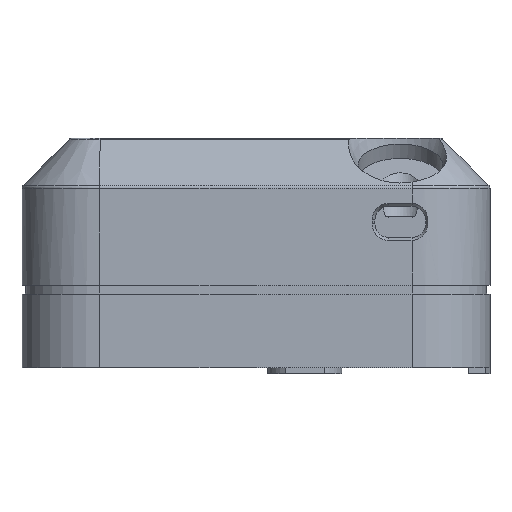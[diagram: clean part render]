
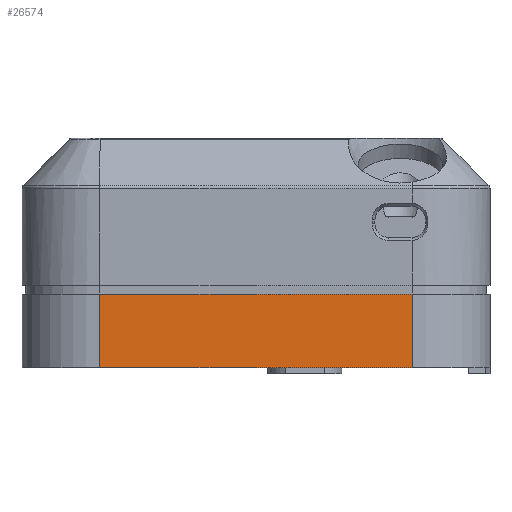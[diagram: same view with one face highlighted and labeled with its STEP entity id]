
A CAD part, left-side view. The second image highlights one B-rep face of the part: STEP entity #26574.
In plain terms, the highlighted planar face has unit normal (-1, 0, 0).
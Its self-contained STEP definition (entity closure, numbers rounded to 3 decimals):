
#4383 = PLANE('',#4384);
#4384 = AXIS2_PLACEMENT_3D('',#4385,#4386,#4387);
#4385 = CARTESIAN_POINT('',(-27.1,-24.1,3.05));
#4386 = DIRECTION('',(0.,0.,1.));
#4387 = DIRECTION('',(1.,0.,0.));
#4986 = VERTEX_POINT('',#4987);
#4987 = CARTESIAN_POINT('',(-27.,16.,3.05));
#5002 = CYLINDRICAL_SURFACE('',#5003,8.);
#5003 = AXIS2_PLACEMENT_3D('',#5004,#5005,#5006);
#5004 = CARTESIAN_POINT('',(-19.,16.,2.4));
#5005 = DIRECTION('',(0.,0.,1.));
#5006 = DIRECTION('',(-1.,-0.,0.));
#5014 = EDGE_CURVE('',#4986,#5015,#5017,.T.);
#5015 = VERTEX_POINT('',#5016);
#5016 = CARTESIAN_POINT('',(-27.,-16.,3.05));
#5017 = SURFACE_CURVE('',#5018,(#5022,#5028),.PCURVE_S1.);
#5018 = LINE('',#5019,#5020);
#5019 = CARTESIAN_POINT('',(-27.,-24.05,3.05));
#5020 = VECTOR('',#5021,1.);
#5021 = DIRECTION('',(0.,-1.,0.));
#5022 = PCURVE('',#4383,#5023);
#5023 = DEFINITIONAL_REPRESENTATION('',(#5024),#5027);
#5024 = B_SPLINE_CURVE_WITH_KNOTS('',1,(#5025,#5026),.UNSPECIFIED.,.F.,
  .F.,(2,2),(-40.05,-8.05),.PIECEWISE_BEZIER_KNOTS.);
#5025 = CARTESIAN_POINT('',(0.1,40.1));
#5026 = CARTESIAN_POINT('',(0.1,8.1));
#5027 = ( GEOMETRIC_REPRESENTATION_CONTEXT(2) 
PARAMETRIC_REPRESENTATION_CONTEXT() REPRESENTATION_CONTEXT('2D SPACE',''
  ) );
#5028 = PCURVE('',#5029,#5034);
#5029 = PLANE('',#5030);
#5030 = AXIS2_PLACEMENT_3D('',#5031,#5032,#5033);
#5031 = CARTESIAN_POINT('',(-27.,-24.,2.4));
#5032 = DIRECTION('',(1.,0.,0.));
#5033 = DIRECTION('',(0.,0.,1.));
#5034 = DEFINITIONAL_REPRESENTATION('',(#5035),#5038);
#5035 = B_SPLINE_CURVE_WITH_KNOTS('',1,(#5036,#5037),.UNSPECIFIED.,.F.,
  .F.,(2,2),(-40.05,-8.05),.PIECEWISE_BEZIER_KNOTS.);
#5036 = CARTESIAN_POINT('',(0.65,-40.));
#5037 = CARTESIAN_POINT('',(0.65,-8.));
#5038 = ( GEOMETRIC_REPRESENTATION_CONTEXT(2) 
PARAMETRIC_REPRESENTATION_CONTEXT() REPRESENTATION_CONTEXT('2D SPACE',''
  ) );
#5057 = CYLINDRICAL_SURFACE('',#5058,8.);
#5058 = AXIS2_PLACEMENT_3D('',#5059,#5060,#5061);
#5059 = CARTESIAN_POINT('',(-19.,-16.,2.4));
#5060 = DIRECTION('',(0.,0.,1.));
#5061 = DIRECTION('',(-1.,-0.,0.));
#5091 = EDGE_CURVE('',#5015,#5092,#5094,.T.);
#5092 = VERTEX_POINT('',#5093);
#5093 = CARTESIAN_POINT('',(-27.,-16.,10.6));
#5094 = SURFACE_CURVE('',#5095,(#5099,#5106),.PCURVE_S1.);
#5095 = LINE('',#5096,#5097);
#5096 = CARTESIAN_POINT('',(-27.,-16.,2.4));
#5097 = VECTOR('',#5098,1.);
#5098 = DIRECTION('',(0.,0.,1.));
#5099 = PCURVE('',#5057,#5100);
#5100 = DEFINITIONAL_REPRESENTATION('',(#5101),#5105);
#5101 = LINE('',#5102,#5103);
#5102 = CARTESIAN_POINT('',(0.,0.));
#5103 = VECTOR('',#5104,1.);
#5104 = DIRECTION('',(0.,1.));
#5105 = ( GEOMETRIC_REPRESENTATION_CONTEXT(2) 
PARAMETRIC_REPRESENTATION_CONTEXT() REPRESENTATION_CONTEXT('2D SPACE',''
  ) );
#5106 = PCURVE('',#5029,#5107);
#5107 = DEFINITIONAL_REPRESENTATION('',(#5108),#5112);
#5108 = LINE('',#5109,#5110);
#5109 = CARTESIAN_POINT('',(0.,-8.));
#5110 = VECTOR('',#5111,1.);
#5111 = DIRECTION('',(1.,0.));
#5112 = ( GEOMETRIC_REPRESENTATION_CONTEXT(2) 
PARAMETRIC_REPRESENTATION_CONTEXT() REPRESENTATION_CONTEXT('2D SPACE',''
  ) );
#5153 = PLANE('',#5154);
#5154 = AXIS2_PLACEMENT_3D('',#5155,#5156,#5157);
#5155 = CARTESIAN_POINT('',(-27.5,-24.5,10.6));
#5156 = DIRECTION('',(0.,0.,1.));
#5157 = DIRECTION('',(1.,0.,0.));
#5168 = EDGE_CURVE('',#5169,#5092,#5171,.T.);
#5169 = VERTEX_POINT('',#5170);
#5170 = CARTESIAN_POINT('',(-27.,16.,10.6));
#5171 = SURFACE_CURVE('',#5172,(#5176,#5182),.PCURVE_S1.);
#5172 = LINE('',#5173,#5174);
#5173 = CARTESIAN_POINT('',(-27.,-24.25,10.6));
#5174 = VECTOR('',#5175,1.);
#5175 = DIRECTION('',(0.,-1.,0.));
#5176 = PCURVE('',#5153,#5177);
#5177 = DEFINITIONAL_REPRESENTATION('',(#5178),#5181);
#5178 = B_SPLINE_CURVE_WITH_KNOTS('',1,(#5179,#5180),.UNSPECIFIED.,.F.,
  .F.,(2,2),(-40.25,-8.25),.PIECEWISE_BEZIER_KNOTS.);
#5179 = CARTESIAN_POINT('',(0.5,40.5));
#5180 = CARTESIAN_POINT('',(0.5,8.5));
#5181 = ( GEOMETRIC_REPRESENTATION_CONTEXT(2) 
PARAMETRIC_REPRESENTATION_CONTEXT() REPRESENTATION_CONTEXT('2D SPACE',''
  ) );
#5182 = PCURVE('',#5029,#5183);
#5183 = DEFINITIONAL_REPRESENTATION('',(#5184),#5187);
#5184 = B_SPLINE_CURVE_WITH_KNOTS('',1,(#5185,#5186),.UNSPECIFIED.,.F.,
  .F.,(2,2),(-40.25,-8.25),.PIECEWISE_BEZIER_KNOTS.);
#5185 = CARTESIAN_POINT('',(8.2,-40.));
#5186 = CARTESIAN_POINT('',(8.2,-8.));
#5187 = ( GEOMETRIC_REPRESENTATION_CONTEXT(2) 
PARAMETRIC_REPRESENTATION_CONTEXT() REPRESENTATION_CONTEXT('2D SPACE',''
  ) );
#26574 = ADVANCED_FACE('',(#26575),#5029,.F.);
#26575 = FACE_BOUND('',#26576,.F.);
#26576 = EDGE_LOOP('',(#26577,#26578,#26579,#26600));
#26577 = ORIENTED_EDGE('',*,*,#5091,.F.);
#26578 = ORIENTED_EDGE('',*,*,#5014,.F.);
#26579 = ORIENTED_EDGE('',*,*,#26580,.T.);
#26580 = EDGE_CURVE('',#4986,#5169,#26581,.T.);
#26581 = SURFACE_CURVE('',#26582,(#26586,#26593),.PCURVE_S1.);
#26582 = LINE('',#26583,#26584);
#26583 = CARTESIAN_POINT('',(-27.,16.,2.4));
#26584 = VECTOR('',#26585,1.);
#26585 = DIRECTION('',(0.,0.,1.));
#26586 = PCURVE('',#5029,#26587);
#26587 = DEFINITIONAL_REPRESENTATION('',(#26588),#26592);
#26588 = LINE('',#26589,#26590);
#26589 = CARTESIAN_POINT('',(0.,-40.));
#26590 = VECTOR('',#26591,1.);
#26591 = DIRECTION('',(1.,0.));
#26592 = ( GEOMETRIC_REPRESENTATION_CONTEXT(2) 
PARAMETRIC_REPRESENTATION_CONTEXT() REPRESENTATION_CONTEXT('2D SPACE',''
  ) );
#26593 = PCURVE('',#5002,#26594);
#26594 = DEFINITIONAL_REPRESENTATION('',(#26595),#26599);
#26595 = LINE('',#26596,#26597);
#26596 = CARTESIAN_POINT('',(-0.,0.));
#26597 = VECTOR('',#26598,1.);
#26598 = DIRECTION('',(-0.,1.));
#26599 = ( GEOMETRIC_REPRESENTATION_CONTEXT(2) 
PARAMETRIC_REPRESENTATION_CONTEXT() REPRESENTATION_CONTEXT('2D SPACE',''
  ) );
#26600 = ORIENTED_EDGE('',*,*,#5168,.T.);
